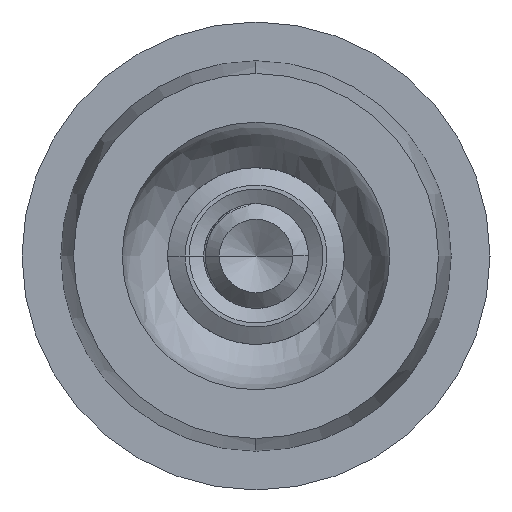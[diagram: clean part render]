
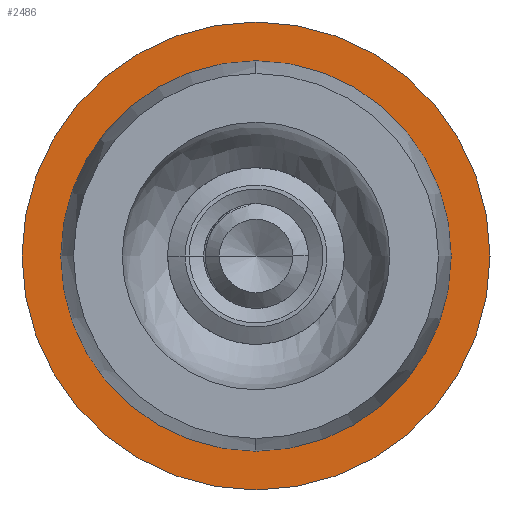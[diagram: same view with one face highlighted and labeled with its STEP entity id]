
A CAD part, left-side view. The second image highlights one B-rep face of the part: STEP entity #2486.
In plain terms, the highlighted planar face has unit normal (-1, 0, 0).
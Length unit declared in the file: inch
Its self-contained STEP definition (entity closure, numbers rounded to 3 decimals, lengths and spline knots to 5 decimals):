
#83 = CARTESIAN_POINT ( 'NONE',  ( -0.75, 0., 0.4375 ) ) ;
#274 = DIRECTION ( 'NONE',  ( 0., 0., 1. ) ) ;
#492 = CIRCLE ( 'NONE', #4977, 0.4375 ) ;
#642 = CARTESIAN_POINT ( 'NONE',  ( -0.75, 0., 0. ) ) ;
#733 = DIRECTION ( 'NONE',  ( -1., 0., 0. ) ) ;
#898 = CIRCLE ( 'NONE', #2788, 0.365 ) ;
#1013 = ORIENTED_EDGE ( 'NONE', *, *, #1353, .F. ) ;
#1076 = VERTEX_POINT ( 'NONE', #3844 ) ;
#1134 = ORIENTED_EDGE ( 'NONE', *, *, #1408, .T. ) ;
#1232 = ORIENTED_EDGE ( 'NONE', *, *, #8009, .T. ) ;
#1295 = DIRECTION ( 'NONE',  ( 0., 0., 1. ) ) ;
#1353 = EDGE_CURVE ( 'NONE', #6922, #1076, #898, .T. ) ;
#1398 = PLANE ( 'NONE',  #1857 ) ;
#1408 = EDGE_CURVE ( 'NONE', #6059, #3620, #492, .T. ) ;
#1730 = ORIENTED_EDGE ( 'NONE', *, *, #8283, .F. ) ;
#1767 = FACE_BOUND ( 'NONE', #5303, .T. ) ;
#1857 = AXIS2_PLACEMENT_3D ( 'NONE', #5966, #2060, #6611 ) ;
#2060 = DIRECTION ( 'NONE',  ( -1., 0., 0. ) ) ;
#2396 = CIRCLE ( 'NONE', #4344, 0.365 ) ;
#2486 = ADVANCED_FACE ( 'NONE', ( #6746, #1767 ), #1398, .T. ) ;
#2588 = AXIS2_PLACEMENT_3D ( 'NONE', #642, #5201, #1295 ) ;
#2788 = AXIS2_PLACEMENT_3D ( 'NONE', #8069, #4173, #274 ) ;
#2897 = CARTESIAN_POINT ( 'NONE',  ( -0.75, 0., 0. ) ) ;
#3555 = DIRECTION ( 'NONE',  ( 0., 0., 1. ) ) ;
#3620 = VERTEX_POINT ( 'NONE', #8411 ) ;
#3844 = CARTESIAN_POINT ( 'NONE',  ( -0.75, 0., -0.365 ) ) ;
#4173 = DIRECTION ( 'NONE',  ( -1., 0., 0. ) ) ;
#4332 = CIRCLE ( 'NONE', #2588, 0.4375 ) ;
#4344 = AXIS2_PLACEMENT_3D ( 'NONE', #4642, #733, #5286 ) ;
#4642 = CARTESIAN_POINT ( 'NONE',  ( -0.75, 0., 0. ) ) ;
#4770 = CARTESIAN_POINT ( 'NONE',  ( -0.75, 0., 0.365 ) ) ;
#4907 = EDGE_LOOP ( 'NONE', ( #1134, #1232 ) ) ;
#4977 = AXIS2_PLACEMENT_3D ( 'NONE', #2897, #7437, #3555 ) ;
#5201 = DIRECTION ( 'NONE',  ( -1., 0., 0. ) ) ;
#5286 = DIRECTION ( 'NONE',  ( 0., 0., 1. ) ) ;
#5303 = EDGE_LOOP ( 'NONE', ( #1013, #1730 ) ) ;
#5966 = CARTESIAN_POINT ( 'NONE',  ( -0.75, 0., -0.365 ) ) ;
#6059 = VERTEX_POINT ( 'NONE', #83 ) ;
#6611 = DIRECTION ( 'NONE',  ( 0., 0., 1. ) ) ;
#6746 = FACE_OUTER_BOUND ( 'NONE', #4907, .T. ) ;
#6922 = VERTEX_POINT ( 'NONE', #4770 ) ;
#7437 = DIRECTION ( 'NONE',  ( -1., 0., 0. ) ) ;
#8009 = EDGE_CURVE ( 'NONE', #3620, #6059, #4332, .T. ) ;
#8069 = CARTESIAN_POINT ( 'NONE',  ( -0.75, 0., 0. ) ) ;
#8283 = EDGE_CURVE ( 'NONE', #1076, #6922, #2396, .T. ) ;
#8411 = CARTESIAN_POINT ( 'NONE',  ( -0.75, 0., -0.4375 ) ) ;
